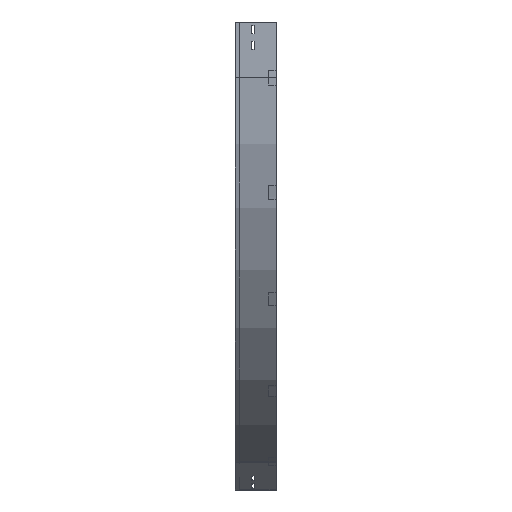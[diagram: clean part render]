
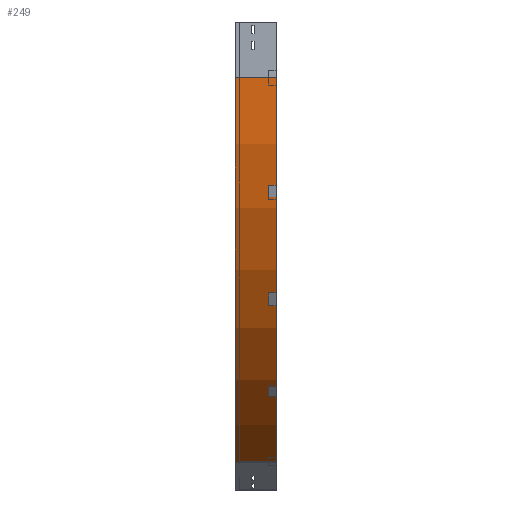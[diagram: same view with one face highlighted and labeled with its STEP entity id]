
A CAD part, left-side view. The second image highlights one B-rep face of the part: STEP entity #249.
In plain terms, the highlighted cylindrical face has radius 1200 mm (diameter 2400 mm), a partial arc.
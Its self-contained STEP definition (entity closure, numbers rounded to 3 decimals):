
#29 = VERTEX_POINT ( 'NONE', #2950 ) ;
#211 = DIRECTION ( 'NONE',  ( 0., -1., 0. ) ) ;
#227 = DIRECTION ( 'NONE',  ( -1., 0., 0. ) ) ;
#236 = DIRECTION ( 'NONE',  ( 0., -1., 0. ) ) ;
#249 = ADVANCED_FACE ( 'NONE', ( #2514 ), #3714, .T. ) ;
#311 = AXIS2_PLACEMENT_3D ( 'NONE', #1039, #1362, #3143 ) ;
#639 = EDGE_LOOP ( 'NONE', ( #848, #3760, #1999, #3692 ) ) ;
#713 = EDGE_CURVE ( 'NONE', #29, #2502, #2557, .T. ) ;
#848 = ORIENTED_EDGE ( 'NONE', *, *, #3785, .F. ) ;
#1039 = CARTESIAN_POINT ( 'NONE',  ( 1200., 0., -150. ) ) ;
#1089 = CARTESIAN_POINT ( 'NONE',  ( 1200., 0., -150. ) ) ;
#1098 = LINE ( 'NONE', #3460, #2481 ) ;
#1164 = CARTESIAN_POINT ( 'NONE',  ( 1200., 112.5, -150. ) ) ;
#1229 = DIRECTION ( 'NONE',  ( 0., -1., 0. ) ) ;
#1350 = VERTEX_POINT ( 'NONE', #2751 ) ;
#1362 = DIRECTION ( 'NONE',  ( 0., -1., 0. ) ) ;
#1701 = DIRECTION ( 'NONE',  ( -1., 0., 0. ) ) ;
#1999 = ORIENTED_EDGE ( 'NONE', *, *, #713, .T. ) ;
#2049 = AXIS2_PLACEMENT_3D ( 'NONE', #1164, #2883, #1701 ) ;
#2163 = CIRCLE ( 'NONE', #3545, 1200. ) ;
#2366 = VECTOR ( 'NONE', #1229, 1000. ) ;
#2401 = CARTESIAN_POINT ( 'NONE',  ( 0., 0., -150. ) ) ;
#2481 = VECTOR ( 'NONE', #236, 1000. ) ;
#2502 = VERTEX_POINT ( 'NONE', #3146 ) ;
#2514 = FACE_OUTER_BOUND ( 'NONE', #639, .T. ) ;
#2557 = CIRCLE ( 'NONE', #2049, 1200. ) ;
#2565 = EDGE_CURVE ( 'NONE', #2502, #1350, #1098, .T. ) ;
#2751 = CARTESIAN_POINT ( 'NONE',  ( 600., 0., -1189.23 ) ) ;
#2883 = DIRECTION ( 'NONE',  ( 0., -1., 0. ) ) ;
#2950 = CARTESIAN_POINT ( 'NONE',  ( 0., 112.5, -150. ) ) ;
#3025 = CARTESIAN_POINT ( 'NONE',  ( 0., 0., -150. ) ) ;
#3122 = VERTEX_POINT ( 'NONE', #2401 ) ;
#3143 = DIRECTION ( 'NONE',  ( 0., 0., -1. ) ) ;
#3146 = CARTESIAN_POINT ( 'NONE',  ( 600., 112.5, -1189.23 ) ) ;
#3339 = LINE ( 'NONE', #3025, #2366 ) ;
#3460 = CARTESIAN_POINT ( 'NONE',  ( 600., 0., -1189.23 ) ) ;
#3544 = EDGE_CURVE ( 'NONE', #29, #3122, #3339, .T. ) ;
#3545 = AXIS2_PLACEMENT_3D ( 'NONE', #1089, #211, #227 ) ;
#3692 = ORIENTED_EDGE ( 'NONE', *, *, #2565, .T. ) ;
#3714 = CYLINDRICAL_SURFACE ( 'NONE', #311, 1200. ) ;
#3760 = ORIENTED_EDGE ( 'NONE', *, *, #3544, .F. ) ;
#3785 = EDGE_CURVE ( 'NONE', #3122, #1350, #2163, .T. ) ;
